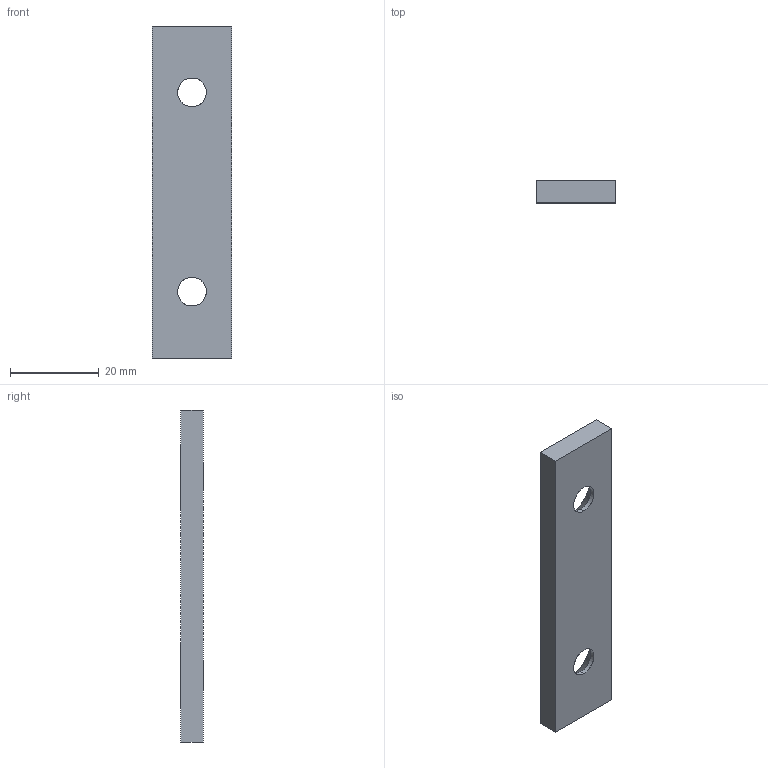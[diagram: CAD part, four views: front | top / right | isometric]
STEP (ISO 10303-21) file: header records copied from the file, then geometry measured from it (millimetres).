
FILE_DESCRIPTION(('CATIA V5 STEP Exchange'),'2;1');
FILE_NAME('C:\Users\Utente\Desktop\3D files A605\A605-018-075.stp','2020-04-13T15:46:03+00:00',('none'),('none'),'CATIA Version 5 Release 20 GA (IN-10)','CATIA V5 STEP AP203','none');
FILE_SCHEMA(('CONFIG_CONTROL_DESIGN'));
Length unit declared in the file: millimetre
Products named in the file (1): Noname
Bounding box: 18 x 5 x 75 mm (x, y, z)
Surface area: 3647.4 mm2 (no closed solid volume)
Topology: 0 solids, 10 shells, 14 faces, 56 edges, 48 vertices
Faces by surface type: extrusion 6, cylinder 4, revolution 4
Entity records: 714 total; most frequent: CARTESIAN_POINT 221, DIRECTION 66, ORIENTED_EDGE 64, EDGE_CURVE 56, VERTEX_POINT 48, VECTOR 38, LINE 32, AXIS2_PLACEMENT_3D 21
